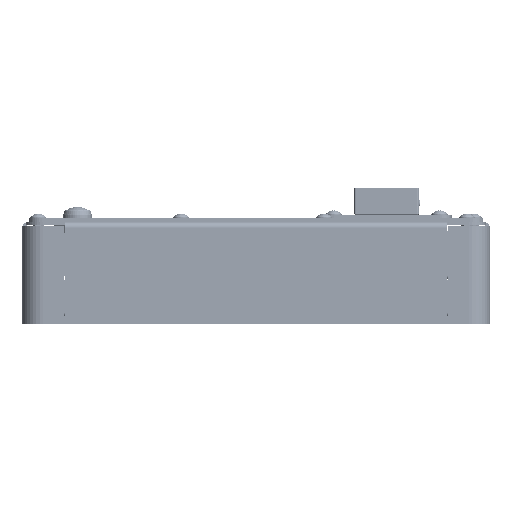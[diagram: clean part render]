
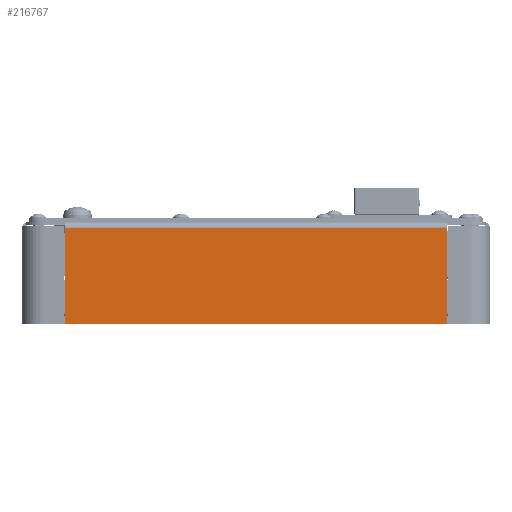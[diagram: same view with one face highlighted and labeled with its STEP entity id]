
A CAD part, left-side view. The second image highlights one B-rep face of the part: STEP entity #216767.
In plain terms, the highlighted planar face has unit normal (-1, 0, 0).
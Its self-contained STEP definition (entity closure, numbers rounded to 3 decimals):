
#15052 = EDGE_CURVE ( 'NONE', #112115, #198310, #137515, .T. ) ;
#16903 = VERTEX_POINT ( 'NONE', #93108 ) ;
#25507 = CARTESIAN_POINT ( 'NONE',  ( -181.5, 117.3, -2. ) ) ;
#28052 = ORIENTED_EDGE ( 'NONE', *, *, #97620, .T. ) ;
#30429 = VECTOR ( 'NONE', #227491, 1000. ) ;
#59204 = DIRECTION ( 'NONE',  ( -1., 0., 0. ) ) ;
#62585 = EDGE_CURVE ( 'NONE', #16903, #112115, #195231, .T. ) ;
#70893 = CARTESIAN_POINT ( 'NONE',  ( -181.5, 117.3, -4. ) ) ;
#75953 = FACE_OUTER_BOUND ( 'NONE', #184566, .T. ) ;
#76719 = LINE ( 'NONE', #187529, #78870 ) ;
#77660 = CARTESIAN_POINT ( 'NONE',  ( -181.5, 0., -4. ) ) ;
#78870 = VECTOR ( 'NONE', #168539, 1000. ) ;
#87200 = VECTOR ( 'NONE', #133987, 1000. ) ;
#93108 = CARTESIAN_POINT ( 'NONE',  ( -181.5, -117.3, -63. ) ) ;
#97620 = EDGE_CURVE ( 'NONE', #127891, #198310, #167152, .T. ) ;
#112115 = VERTEX_POINT ( 'NONE', #174748 ) ;
#113136 = CARTESIAN_POINT ( 'NONE',  ( -181.5, -117.3, -4. ) ) ;
#127891 = VERTEX_POINT ( 'NONE', #113136 ) ;
#129564 = DIRECTION ( 'NONE',  ( 0., 0., 1. ) ) ;
#133987 = DIRECTION ( 'NONE',  ( 0., 0., 1. ) ) ;
#137515 = LINE ( 'NONE', #25507, #87200 ) ;
#148285 = ORIENTED_EDGE ( 'NONE', *, *, #62585, .F. ) ;
#148715 = PLANE ( 'NONE',  #190304 ) ;
#153909 = ORIENTED_EDGE ( 'NONE', *, *, #15052, .F. ) ;
#154810 = CARTESIAN_POINT ( 'NONE',  ( -181.5, 117.3, -63. ) ) ;
#167152 = LINE ( 'NONE', #77660, #202601 ) ;
#168539 = DIRECTION ( 'NONE',  ( 0., 0., -1. ) ) ;
#174748 = CARTESIAN_POINT ( 'NONE',  ( -181.5, 117.3, -63. ) ) ;
#183796 = ORIENTED_EDGE ( 'NONE', *, *, #190714, .F. ) ;
#184566 = EDGE_LOOP ( 'NONE', ( #183796, #28052, #153909, #148285 ) ) ;
#187529 = CARTESIAN_POINT ( 'NONE',  ( -181.5, -117.3, -63. ) ) ;
#190304 = AXIS2_PLACEMENT_3D ( 'NONE', #222546, #59204, #129564 ) ;
#190714 = EDGE_CURVE ( 'NONE', #127891, #16903, #76719, .T. ) ;
#195231 = LINE ( 'NONE', #154810, #30429 ) ;
#198310 = VERTEX_POINT ( 'NONE', #70893 ) ;
#202601 = VECTOR ( 'NONE', #209918, 1000. ) ;
#209918 = DIRECTION ( 'NONE',  ( 0., 1., 0. ) ) ;
#216767 = ADVANCED_FACE ( 'NONE', ( #75953 ), #148715, .T. ) ;
#222546 = CARTESIAN_POINT ( 'NONE',  ( -181.5, 0., 0. ) ) ;
#227491 = DIRECTION ( 'NONE',  ( 0., 1., 0. ) ) ;
